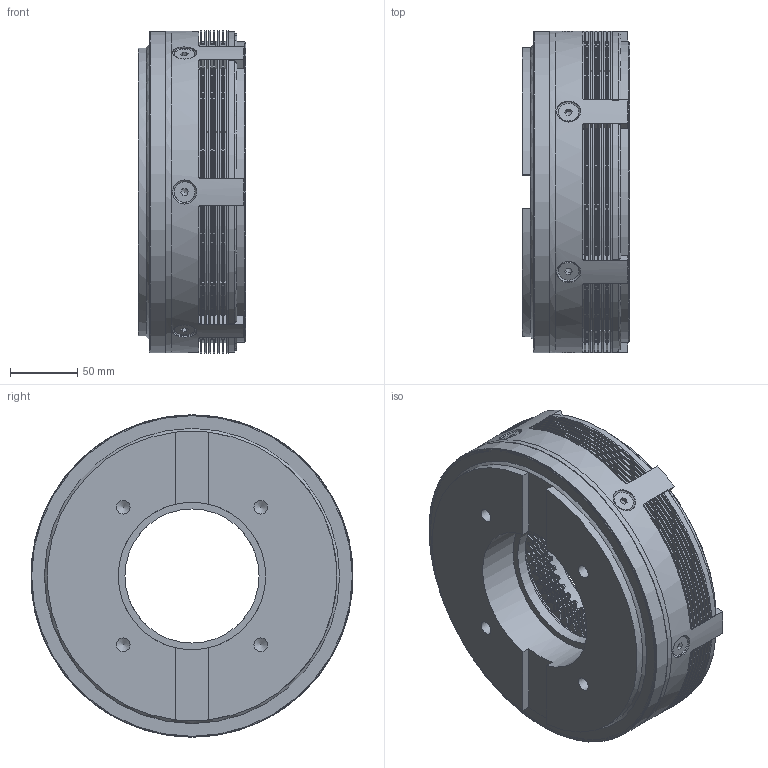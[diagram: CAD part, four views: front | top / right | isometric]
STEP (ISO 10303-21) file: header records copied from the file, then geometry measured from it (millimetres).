
FILE_DESCRIPTION(/* description */ (''),/* implementation_level */ '2;1');
FILE_NAME(/* name */ 'X:\INVENTOR\DISEGNI\05_Friz_Elettmag-Lam\05_02 ECF\05_02_240_01 ECF240\05_02_240_01 ECF240@STEP.stp',/* time_stamp */ '2023-03-10T13:51:39+01:00',/* author */ ('alessio'),/* organization */ (''),/* preprocessor_version */ 'ST-DEVELOPER v18.1',/* originating_system */ 'Autodesk Inventor 2021',/* authorisation */ '');
FILE_SCHEMA (('AUTOMOTIVE_DESIGN { 1 0 10303 214 3 1 1 }'));
Products named in the file (1): 05_02_240_01 ECF240
Bounding box: 80 x 240 x 240.5 mm (x, y, z)
Volume: 2396665.1 mm3; surface area: 867150.1 mm2
Topology: 6 solids, 21 shells, 3593 faces, 10667 edges, 7006 vertices
Faces by surface type: cylinder 3019, plane 523, cone 45, torus 6
Full cylindrical faces by diameter (mm): 6.647 x6, 8 x6, 8.5 x6, 10.106 x4, 15.24 x6, 18 x6, 100 x1, 110 x1, 114 x2, 162 x1, 168 x1, 186 x1, 192 x1, 224 x2, 240 x3
Entity records: 128345 total; most frequent: DIRECTION 23981, CARTESIAN_POINT 22327, ORIENTED_EDGE 21314, EDGE_CURVE 10657, AXIS2_PLACEMENT_3D 9839, VERTEX_POINT 7006, CIRCLE 6209, LINE 4303
